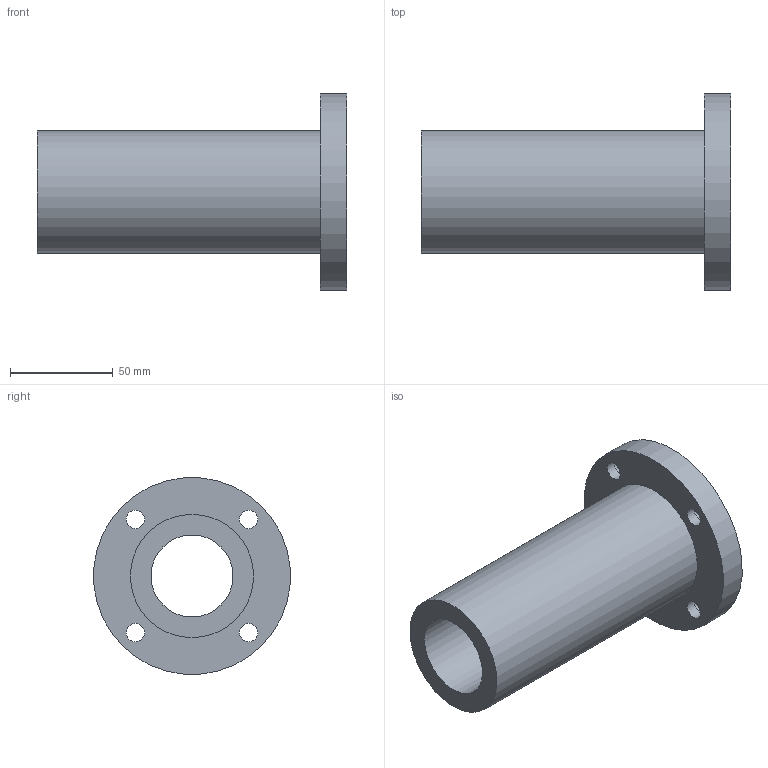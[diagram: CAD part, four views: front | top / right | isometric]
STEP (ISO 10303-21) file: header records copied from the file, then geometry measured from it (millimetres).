
FILE_DESCRIPTION(/* description */ (''),/* implementation_level */ '2;1');
FILE_NAME(/* name */ 'LMF40LUU',/* time_stamp */ '2019-07-03T10:03:15+02:00',/* author */ ('VĂ©gh MĂˇtĂ©'),/* organization */ ('Bearing Kft'),/* preprocessor_version */ 'ST-DEVELOPER v16.7',/* originating_system */ 'DEX',/* authorisation */ $);
FILE_SCHEMA (('AUTOMOTIVE_DESIGN {1 0 10303 214 3 1 1}'));
Length unit declared in the file: millimetre
Products named in the file (1): LMF40LUU
Bounding box: 151 x 95.63 x 95.63 mm (x, y, z)
Volume: 288282.5 mm3; surface area: 62384.1 mm2
Topology: 1 solids, 1 shells, 331 faces, 828 edges, 552 vertices
Faces by surface type: plane 261, bspline 57, cylinder 13
Full cylindrical faces by diameter (mm): 9 x4, 14 x4, 40 x1, 60 x1, 96 x1
Entity records: 12968 total; most frequent: CARTESIAN_POINT 5397, ORIENTED_EDGE 1628, DIRECTION 1276, EDGE_CURVE 814, LINE 674, VECTOR 674, VERTEX_POINT 552, EDGE_LOOP 408
